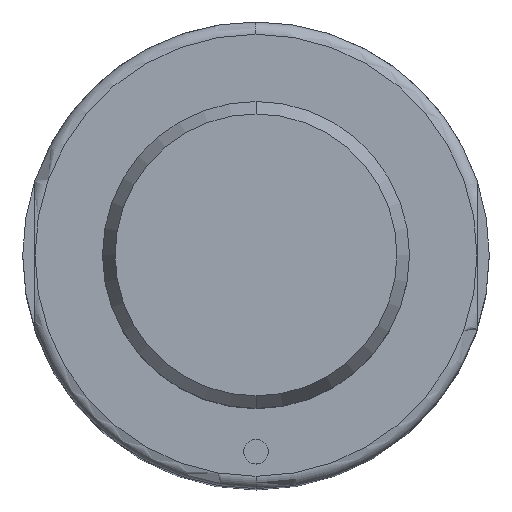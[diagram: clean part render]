
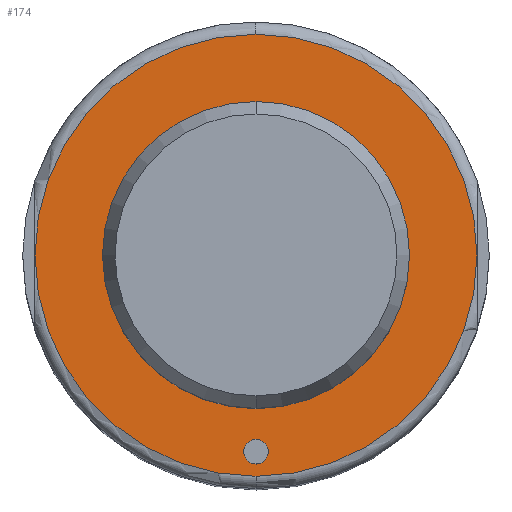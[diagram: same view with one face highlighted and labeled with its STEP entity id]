
A CAD part, top view. The second image highlights one B-rep face of the part: STEP entity #174.
In plain terms, the highlighted planar face has unit normal (0, 0, 1).
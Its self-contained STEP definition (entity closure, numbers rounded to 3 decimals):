
#105=FACE_BOUND('',#298,.T.);
#106=FACE_BOUND('',#299,.T.);
#107=FACE_BOUND('',#300,.T.);
#125=PLANE('',#985);
#174=ADVANCED_FACE('',(#105,#106,#107),#125,.T.);
#298=EDGE_LOOP('',(#459,#460,#461,#462));
#299=EDGE_LOOP('',(#463,#464));
#300=EDGE_LOOP('',(#465,#466));
#367=CIRCLE('',#968,12.5);
#368=CIRCLE('',#970,12.5);
#373=CIRCLE('',#979,18.);
#374=CIRCLE('',#980,18.);
#375=CIRCLE('',#981,18.);
#376=CIRCLE('',#982,18.);
#377=CIRCLE('',#983,1.);
#378=CIRCLE('',#984,1.);
#459=ORIENTED_EDGE('',*,*,#765,.F.);
#460=ORIENTED_EDGE('',*,*,#766,.F.);
#461=ORIENTED_EDGE('',*,*,#767,.F.);
#462=ORIENTED_EDGE('',*,*,#768,.F.);
#463=ORIENTED_EDGE('',*,*,#769,.F.);
#464=ORIENTED_EDGE('',*,*,#770,.F.);
#465=ORIENTED_EDGE('',*,*,#758,.T.);
#466=ORIENTED_EDGE('',*,*,#756,.T.);
#677=VERTEX_POINT('',#1411);
#678=VERTEX_POINT('',#1413);
#683=VERTEX_POINT('',#1432);
#684=VERTEX_POINT('',#1433);
#685=VERTEX_POINT('',#1435);
#686=VERTEX_POINT('',#1437);
#687=VERTEX_POINT('',#1440);
#688=VERTEX_POINT('',#1441);
#756=EDGE_CURVE('',#678,#677,#367,.T.);
#758=EDGE_CURVE('',#677,#678,#368,.T.);
#765=EDGE_CURVE('',#683,#684,#373,.T.);
#766=EDGE_CURVE('',#685,#683,#374,.T.);
#767=EDGE_CURVE('',#686,#685,#375,.T.);
#768=EDGE_CURVE('',#684,#686,#376,.T.);
#769=EDGE_CURVE('',#687,#688,#377,.T.);
#770=EDGE_CURVE('',#688,#687,#378,.T.);
#968=AXIS2_PLACEMENT_3D('',#1412,#1108,#1109);
#970=AXIS2_PLACEMENT_3D('',#1416,#1113,#1114);
#979=AXIS2_PLACEMENT_3D('',#1431,#1133,#1134);
#980=AXIS2_PLACEMENT_3D('',#1434,#1135,#1136);
#981=AXIS2_PLACEMENT_3D('',#1436,#1137,#1138);
#982=AXIS2_PLACEMENT_3D('',#1438,#1139,#1140);
#983=AXIS2_PLACEMENT_3D('',#1439,#1141,#1142);
#984=AXIS2_PLACEMENT_3D('',#1442,#1143,#1144);
#985=AXIS2_PLACEMENT_3D('',#1443,#1145,#1146);
#1108=DIRECTION('',(0.,0.,-1.));
#1109=DIRECTION('',(-1.,0.,0.));
#1113=DIRECTION('',(0.,0.,-1.));
#1114=DIRECTION('',(1.,0.,0.));
#1133=DIRECTION('',(0.,0.,-1.));
#1134=DIRECTION('',(-1.,0.,0.));
#1135=DIRECTION('',(0.,0.,-1.));
#1136=DIRECTION('',(1.,0.,0.));
#1137=DIRECTION('',(0.,0.,-1.));
#1138=DIRECTION('',(1.,0.,0.));
#1139=DIRECTION('',(0.,0.,-1.));
#1140=DIRECTION('',(-1.,0.,0.));
#1141=DIRECTION('',(0.,0.,1.));
#1142=DIRECTION('',(1.,0.,0.));
#1143=DIRECTION('',(0.,0.,1.));
#1144=DIRECTION('',(-1.,0.,0.));
#1145=DIRECTION('',(0.,0.,1.));
#1146=DIRECTION('',(1.,0.,0.));
#1411=CARTESIAN_POINT('',(0.,-12.5,68.));
#1412=CARTESIAN_POINT('',(0.,0.,68.));
#1413=CARTESIAN_POINT('',(0.,12.5,68.));
#1416=CARTESIAN_POINT('',(0.,0.,68.));
#1431=CARTESIAN_POINT('',(0.,0.,68.));
#1432=CARTESIAN_POINT('',(0.,18.,68.));
#1433=CARTESIAN_POINT('',(18.,0.,68.));
#1434=CARTESIAN_POINT('',(0.,0.,68.));
#1435=CARTESIAN_POINT('',(-18.,0.,68.));
#1436=CARTESIAN_POINT('',(0.,0.,68.));
#1437=CARTESIAN_POINT('',(0.,-18.,68.));
#1438=CARTESIAN_POINT('',(0.,0.,68.));
#1439=CARTESIAN_POINT('',(0.,-16.,68.));
#1440=CARTESIAN_POINT('',(0.,-15.,68.));
#1441=CARTESIAN_POINT('',(0.,-17.,68.));
#1442=CARTESIAN_POINT('',(0.,-16.,68.));
#1443=CARTESIAN_POINT('',(0.,0.,68.));
